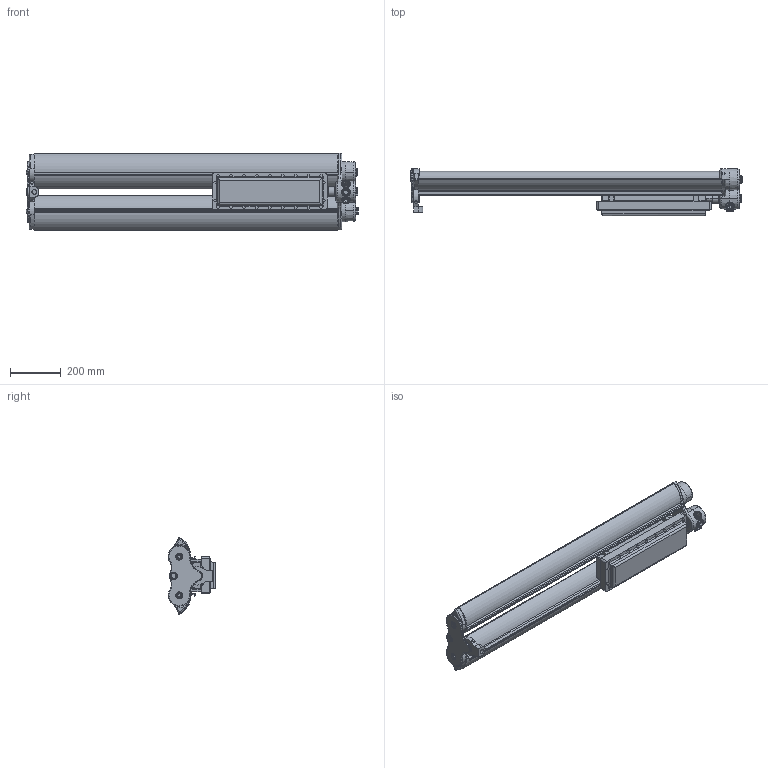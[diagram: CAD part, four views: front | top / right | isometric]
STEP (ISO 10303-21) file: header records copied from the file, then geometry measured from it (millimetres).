
FILE_DESCRIPTION (( 'STEP AP214' ), '1' );
FILE_NAME ('EPL-48-2L-PND.STEP', '2015-03-13T12:48:18', ( '' ), ( '' ), 'SwSTEP 2.0', 'SolidWorks 2015', '' );
FILE_SCHEMA (( 'AUTOMOTIVE_DESIGN' ));
Length unit declared in the file: inch
Products named in the file (14): EPL-48-2L-PND; Ballast Box; EPL-48-2 light no ballast_PND; Pendant Mount; Spider End_1; connect 2_1; Glass tube4ft_1; quarter screw_1; connect 1_1; Update Reflector 4ft_1; End Support_1; End Support_1_1_2; End Support_1_1_3; End Support_1_1
Assembly tree (17 placements, depth 4):
  EPL-48-2L-PND
    EPL-48-2 light no ballast_PND
      End Support_1
        End Support_1_1
        End Support_1_1_3
        End Support_1_1_2
      Update Reflector 4ft_1  x2
      connect 1_1  x2
      quarter screw_1  x2
      Glass tube4ft_1  x2
      connect 2_1
      Spider End_1
      Pendant Mount
    Ballast Box
Bounding box: 1307.55 x 186.74 x 304.38 mm (x, y, z)
Volume: 10016115 mm3; surface area: 1902818.1 mm2
Topology: 14 solids, 16 shells, 641 faces, 1870 edges, 1236 vertices
Faces by surface type: plane 268, cylinder 177, bspline 74, torus 72, cone 42, sphere 8
Entity records: 35634 total; most frequent: CARTESIAN_POINT 16394, ORIENTED_EDGE 2931, DIRECTION 2768, EDGE_CURVE 1648, VERTEX_POINT 1110, AXIS2_PLACEMENT_3D 928, LINE 912, VECTOR 912
